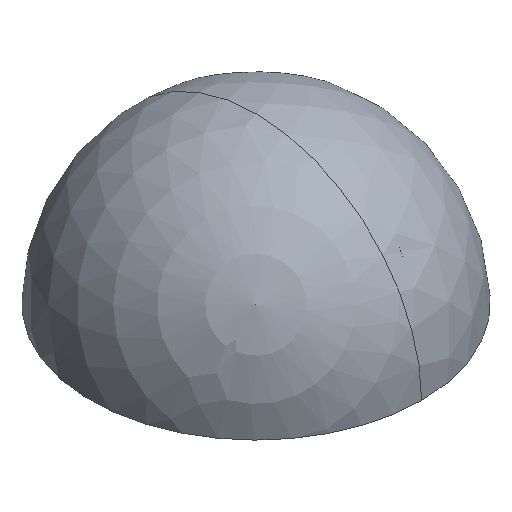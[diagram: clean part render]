
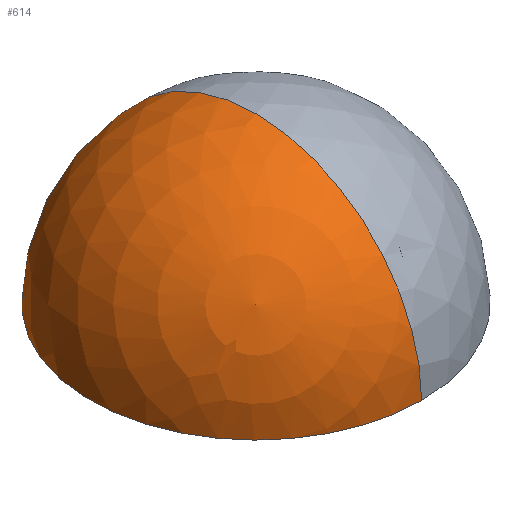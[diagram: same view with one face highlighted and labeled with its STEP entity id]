
A CAD part, isometric view. The second image highlights one B-rep face of the part: STEP entity #614.
In plain terms, the highlighted spherical face has radius 165 mm.
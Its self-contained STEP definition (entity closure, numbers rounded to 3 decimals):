
#55=SPHERICAL_SURFACE('',#705,165.);
#80=FACE_OUTER_BOUND('',#118,.T.);
#118=EDGE_LOOP('',(#472,#473,#474,#475,#476));
#172=CIRCLE('',#706,165.);
#173=CIRCLE('',#707,165.);
#174=CIRCLE('',#708,165.);
#175=CIRCLE('',#709,165.);
#288=VERTEX_POINT('',#1084);
#289=VERTEX_POINT('',#1085);
#290=VERTEX_POINT('',#1087);
#291=VERTEX_POINT('',#1089);
#360=EDGE_CURVE('',#288,#289,#172,.T.);
#361=EDGE_CURVE('',#290,#289,#173,.T.);
#362=EDGE_CURVE('',#291,#290,#174,.T.);
#363=EDGE_CURVE('',#288,#290,#175,.T.);
#472=ORIENTED_EDGE('',*,*,#360,.T.);
#473=ORIENTED_EDGE('',*,*,#361,.F.);
#474=ORIENTED_EDGE('',*,*,#362,.F.);
#475=ORIENTED_EDGE('',*,*,#362,.T.);
#476=ORIENTED_EDGE('',*,*,#363,.F.);
#614=ADVANCED_FACE('',(#80),#55,.T.);
#705=AXIS2_PLACEMENT_3D('',#1083,#865,#866);
#706=AXIS2_PLACEMENT_3D('',#1086,#867,#868);
#707=AXIS2_PLACEMENT_3D('',#1088,#869,#870);
#708=AXIS2_PLACEMENT_3D('',#1090,#871,#872);
#709=AXIS2_PLACEMENT_3D('',#1091,#873,#874);
#865=DIRECTION('center_axis',(0.577,0.577,0.577));
#866=DIRECTION('ref_axis',(-0.707,0.,0.707));
#867=DIRECTION('center_axis',(1.,0.,0.));
#868=DIRECTION('ref_axis',(0.,1.,0.));
#869=DIRECTION('center_axis',(0.,0.,-1.));
#870=DIRECTION('ref_axis',(0.,1.,0.));
#871=DIRECTION('center_axis',(-0.408,0.816,-0.408));
#872=DIRECTION('ref_axis',(0.707,0.,-0.707));
#873=DIRECTION('center_axis',(0.,0.,-1.));
#874=DIRECTION('ref_axis',(0.,1.,0.));
#1083=CARTESIAN_POINT('Origin',(0.,0.,0.));
#1084=CARTESIAN_POINT('',(0.,165.,0.));
#1085=CARTESIAN_POINT('',(0.,-165.,0.));
#1086=CARTESIAN_POINT('Origin',(0.,0.,0.));
#1087=CARTESIAN_POINT('',(147.58,73.79,0.));
#1088=CARTESIAN_POINT('Origin',(0.,0.,
0.));
#1089=CARTESIAN_POINT('',(95.263,95.263,95.263));
#1090=CARTESIAN_POINT('Origin',(0.,0.,0.));
#1091=CARTESIAN_POINT('Origin',(0.,0.,
0.));
